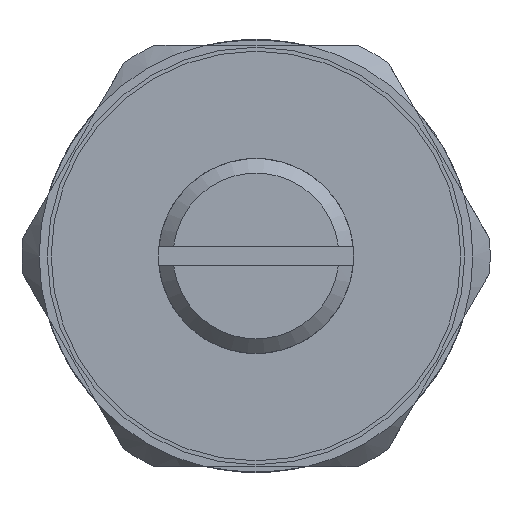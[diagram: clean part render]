
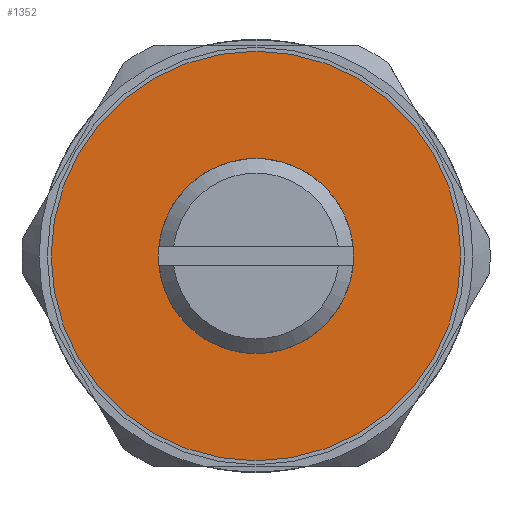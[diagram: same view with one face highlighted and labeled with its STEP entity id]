
A CAD part, left-side view. The second image highlights one B-rep face of the part: STEP entity #1352.
In plain terms, the highlighted planar face has unit normal (-1, 0, 0).
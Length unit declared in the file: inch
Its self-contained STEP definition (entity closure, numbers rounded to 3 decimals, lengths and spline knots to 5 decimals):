
#67=FACE_BOUND('',#230,.T.);
#93=PLANE('',#1504);
#151=FACE_OUTER_BOUND('',#229,.T.);
#229=EDGE_LOOP('',(#1041,#1042));
#230=EDGE_LOOP('',(#1043,#1044));
#418=CIRCLE('',#1449,0.14764);
#419=CIRCLE('',#1450,0.14764);
#448=CIRCLE('',#1505,0.41339);
#449=CIRCLE('',#1506,0.41339);
#520=VERTEX_POINT('',#2073);
#521=VERTEX_POINT('',#2074);
#574=VERTEX_POINT('',#2282);
#575=VERTEX_POINT('',#2283);
#665=EDGE_CURVE('',#520,#521,#418,.T.);
#666=EDGE_CURVE('',#521,#520,#419,.T.);
#746=EDGE_CURVE('',#574,#575,#448,.T.);
#747=EDGE_CURVE('',#575,#574,#449,.T.);
#1041=ORIENTED_EDGE('',*,*,#746,.T.);
#1042=ORIENTED_EDGE('',*,*,#747,.T.);
#1043=ORIENTED_EDGE('',*,*,#665,.T.);
#1044=ORIENTED_EDGE('',*,*,#666,.T.);
#1352=ADVANCED_FACE('',(#151,#67),#93,.T.);
#1449=AXIS2_PLACEMENT_3D('',#2075,#1674,#1675);
#1450=AXIS2_PLACEMENT_3D('',#2076,#1676,#1677);
#1504=AXIS2_PLACEMENT_3D('',#2281,#1811,#1812);
#1505=AXIS2_PLACEMENT_3D('',#2284,#1813,#1814);
#1506=AXIS2_PLACEMENT_3D('',#2285,#1815,#1816);
#1674=DIRECTION('center_axis',(1.,0.,0.));
#1675=DIRECTION('ref_axis',(0.,0.866,-0.5));
#1676=DIRECTION('center_axis',(1.,0.,0.));
#1677=DIRECTION('ref_axis',(0.,0.866,-0.5));
#1811=DIRECTION('center_axis',(-1.,0.,0.));
#1812=DIRECTION('ref_axis',(0.,0.866,-0.5));
#1813=DIRECTION('center_axis',(-1.,0.,0.));
#1814=DIRECTION('ref_axis',(0.,0.866,-0.5));
#1815=DIRECTION('center_axis',(-1.,0.,0.));
#1816=DIRECTION('ref_axis',(0.,0.866,-0.5));
#2073=CARTESIAN_POINT('',(-2.25408,0.22916,-0.41816));
#2074=CARTESIAN_POINT('',(-2.25408,-0.02656,-0.27052));
#2075=CARTESIAN_POINT('Origin',(-2.25408,0.1013,-0.34434));
#2076=CARTESIAN_POINT('Origin',(-2.25408,0.1013,-0.34434));
#2281=CARTESIAN_POINT('Origin',(-2.25408,0.1013,-0.34434));
#2282=CARTESIAN_POINT('',(-2.25408,0.4593,-0.55103));
#2283=CARTESIAN_POINT('',(-2.25408,-0.2567,-0.13765));
#2284=CARTESIAN_POINT('Origin',(-2.25408,0.1013,-0.34434));
#2285=CARTESIAN_POINT('Origin',(-2.25408,0.1013,-0.34434));
